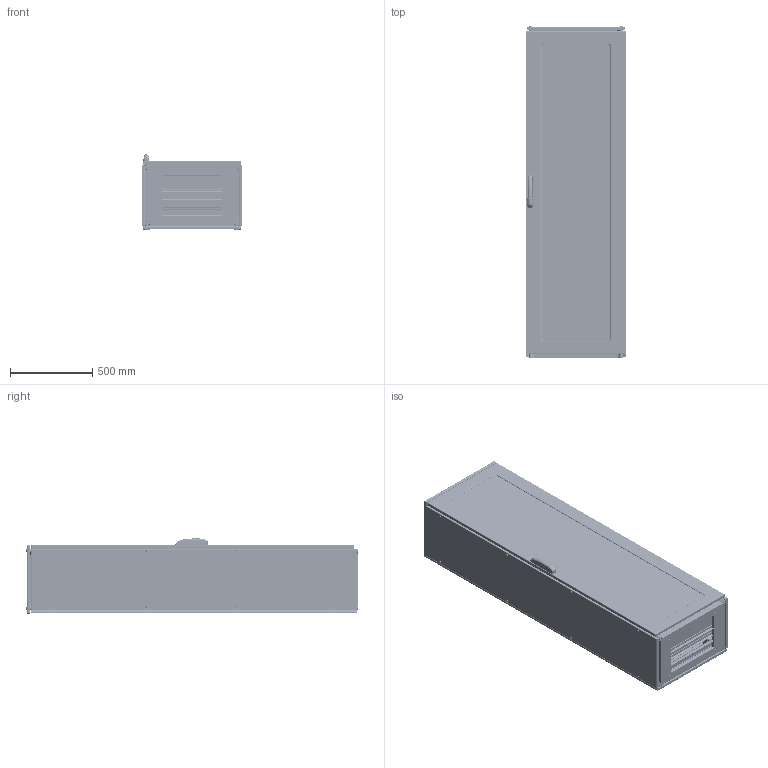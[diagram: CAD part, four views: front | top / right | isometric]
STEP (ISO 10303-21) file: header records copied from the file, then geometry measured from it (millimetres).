
FILE_DESCRIPTION (( 'STEP AP203' ), '1' );
FILE_NAME ('ENUX062004PV.STEP', '2025-05-29T08:17:41', ( '' ), ( '' ), 'SwSTEP 2.0', 'SolidWorks 2022', '' );
FILE_SCHEMA (( 'CONFIG_CONTROL_DESIGN' ));
Length unit declared in the file: millimetre
Products named in the file (13): AR_ENUX_Fianco_0400x2000_SX; AR_ENUX_Fianco_0400x2000_DX; ENUX062004PV; AR_ENUX_nuova_maniglia_mesan; AR_ENUX_Retro_singolo_0600x2000; AR_ENUX_Tegolino_0600x0100; AR_ENUX_Porta_singola_plexi_0600x2000_ANT; AR_ENUX_Vite_tetto; AR_ENUX_Tetto_0600x0400; AR_ENUX_Struttura_0600x2000x0400; AR_ENUX_Tegolino_0600x0050; AR_ENUX_Plexiglass_porte_0600X2000; AR_ENUX_montaggio_porta_singlola_plexi_0600x2000_ANT_DX
Assembly tree (16 placements, depth 3):
  ENUX062004PV
    AR_ENUX_Struttura_0600x2000x0400
    AR_ENUX_Retro_singolo_0600x2000
    AR_ENUX_Fianco_0400x2000_SX
    AR_ENUX_Fianco_0400x2000_DX
    AR_ENUX_Tetto_0600x0400
    AR_ENUX_Vite_tetto  x4
    AR_ENUX_montaggio_porta_singlola_plexi_0600x2000_ANT_DX
      AR_ENUX_Porta_singola_plexi_0600x2000_ANT
      AR_ENUX_Plexiglass_porte_0600X2000
      AR_ENUX_nuova_maniglia_mesan
    AR_ENUX_Tegolino_0600x0100
    AR_ENUX_Tegolino_0600x0050  x2
Bounding box: 612 x 2015.1 x 457 mm (x, y, z)
Volume: 12241422.3 mm3; surface area: 15095004 mm2
Topology: 15 solids, 15 shells, 8160 faces, 23089 edges, 14852 vertices
Faces by surface type: plane 4292, cylinder 2964, bspline 365, torus 279, cone 192, sphere 68
Entity records: 305422 total; most frequent: CARTESIAN_POINT 86729, ORIENTED_EDGE 45340, DIRECTION 43329, EDGE_CURVE 22670, LINE 15347, VECTOR 15347, VERTEX_POINT 14694, AXIS2_PLACEMENT_3D 13991
